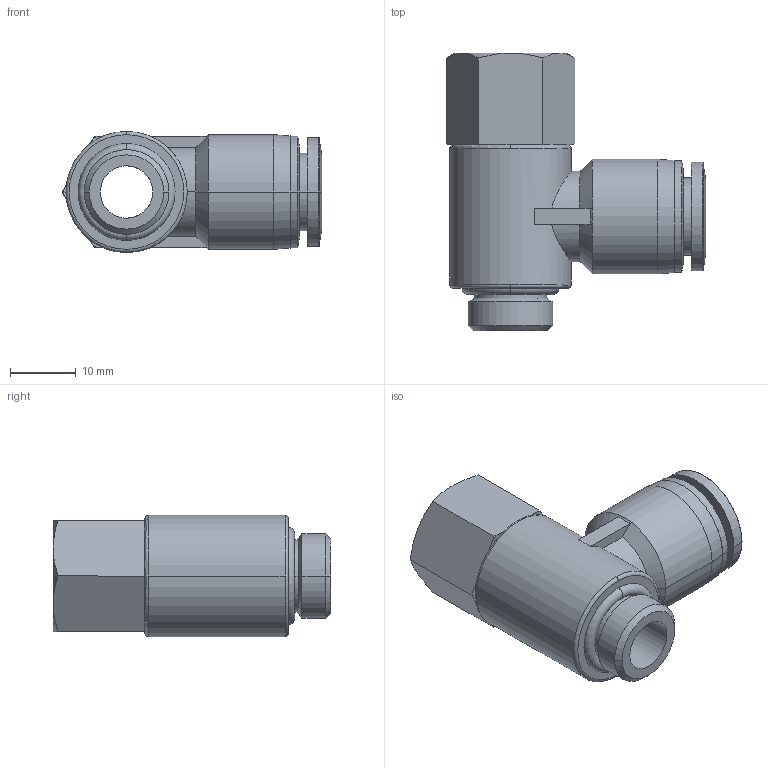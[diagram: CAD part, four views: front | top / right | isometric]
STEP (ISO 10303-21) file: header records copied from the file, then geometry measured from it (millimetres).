
FILE_DESCRIPTION (( 'STEP AP203' ), '1' );
FILE_NAME ('FVF10-02.STEP', '2020-05-11T14:29:42', ( '' ), ( '' ), 'SwSTEP 2.0', 'SolidWorks 2019', '' );
FILE_SCHEMA (( 'CONFIG_CONTROL_DESIGN' ));
Length unit declared in the file: millimetre
Products named in the file (1): FVF10-02
Bounding box: 39.62 x 42.4 x 18.5 mm (x, y, z)
Volume: 9716.1 mm3; surface area: 6284 mm2
Topology: 1 solids, 1 shells, 94 faces, 227 edges, 140 vertices
Faces by surface type: plane 33, cone 26, cylinder 25, torus 8, bspline 2
Entity records: 3012 total; most frequent: CARTESIAN_POINT 760, DIRECTION 487, ORIENTED_EDGE 454, EDGE_CURVE 227, AXIS2_PLACEMENT_3D 207, VERTEX_POINT 140, CIRCLE 114, EDGE_LOOP 103
